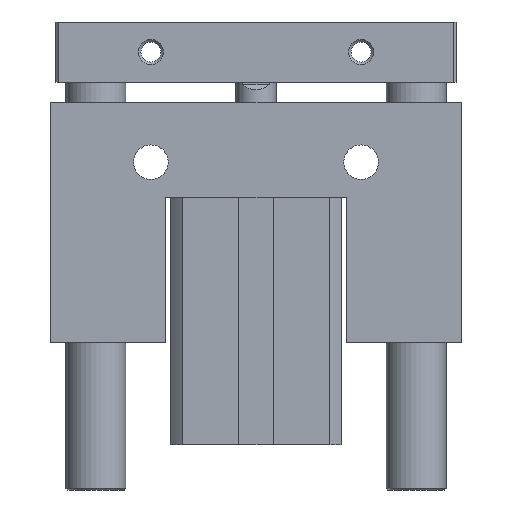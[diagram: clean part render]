
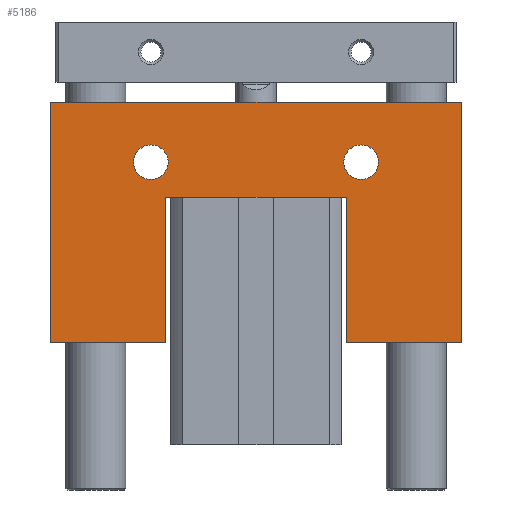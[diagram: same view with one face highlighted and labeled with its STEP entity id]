
A CAD part, front view. The second image highlights one B-rep face of the part: STEP entity #5186.
In plain terms, the highlighted planar face has unit normal (0, -1, 0).
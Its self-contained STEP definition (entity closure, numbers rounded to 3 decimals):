
#2112=CARTESIAN_POINT('',(-17.76,-16.817,20.5));
#2113=VERTEX_POINT('',#2112);
#2114=CARTESIAN_POINT('',(-40.76,-16.817,20.5));
#2115=VERTEX_POINT('',#2114);
#2116=CARTESIAN_POINT('',(-17.76,-16.817,20.5));
#2117=DIRECTION('',(-1.0,0.0,0.0));
#2118=VECTOR('',#2117,23.);
#2119=LINE('',#2116,#2118);
#2120=EDGE_CURVE('',#2113,#2115,#2119,.T.);
#2203=CARTESIAN_POINT('',(41.24,-16.817,20.5));
#2204=VERTEX_POINT('',#2203);
#2205=CARTESIAN_POINT('',(18.24,-16.817,20.5));
#2206=VERTEX_POINT('',#2205);
#2207=CARTESIAN_POINT('',(41.24,-16.817,20.5));
#2208=DIRECTION('',(-1.0,0.0,0.0));
#2209=VECTOR('',#2208,23.0);
#2210=LINE('',#2207,#2209);
#2211=EDGE_CURVE('',#2204,#2206,#2210,.T.);
#2266=CARTESIAN_POINT('',(-40.76,-16.817,68.5));
#2267=VERTEX_POINT('',#2266);
#2268=CARTESIAN_POINT('',(41.24,-16.817,68.5));
#2269=VERTEX_POINT('',#2268);
#2270=CARTESIAN_POINT('',(-40.76,-16.817,68.5));
#2271=DIRECTION('',(1.0,0.0,0.0));
#2272=VECTOR('',#2271,82.);
#2273=LINE('',#2270,#2272);
#2274=EDGE_CURVE('',#2267,#2269,#2273,.T.);
#4418=CARTESIAN_POINT('',(17.79,-16.817,56.5));
#4419=VERTEX_POINT('',#4418);
#4420=CARTESIAN_POINT('',(21.24,-16.817,56.5));
#4421=DIRECTION('',(0.0,1.0,0.0));
#4422=DIRECTION('',(1.0,0.0,0.0));
#4423=AXIS2_PLACEMENT_3D('',#4420,#4421,#4422);
#4424=CIRCLE('',#4423,3.45);
#4425=EDGE_CURVE('',#4419,#4419,#4424,.T.);
#4528=CARTESIAN_POINT('',(-24.21,-16.817,56.5));
#4529=VERTEX_POINT('',#4528);
#4530=CARTESIAN_POINT('',(-20.76,-16.817,56.5));
#4531=DIRECTION('',(0.0,1.0,0.0));
#4532=DIRECTION('',(1.0,0.0,0.0));
#4533=AXIS2_PLACEMENT_3D('',#4530,#4531,#4532);
#4534=CIRCLE('',#4533,3.45);
#4535=EDGE_CURVE('',#4529,#4529,#4534,.T.);
#4588=CARTESIAN_POINT('',(18.24,-16.817,49.5));
#4589=VERTEX_POINT('',#4588);
#4590=CARTESIAN_POINT('',(-17.76,-16.817,49.5));
#4591=VERTEX_POINT('',#4590);
#4592=CARTESIAN_POINT('',(18.24,-16.817,49.5));
#4593=DIRECTION('',(-1.0,0.0,0.0));
#4594=VECTOR('',#4593,36.0);
#4595=LINE('',#4592,#4594);
#4596=EDGE_CURVE('',#4589,#4591,#4595,.T.);
#5078=CARTESIAN_POINT('',(41.24,-16.817,68.5));
#5079=DIRECTION('',(0.0,0.0,-1.0));
#5080=VECTOR('',#5079,48.);
#5081=LINE('',#5078,#5080);
#5082=EDGE_CURVE('',#2269,#2204,#5081,.T.);
#5107=CARTESIAN_POINT('',(18.24,-16.817,20.5));
#5108=DIRECTION('',(0.0,0.0,1.0));
#5109=VECTOR('',#5108,29.);
#5110=LINE('',#5107,#5109);
#5111=EDGE_CURVE('',#2206,#4589,#5110,.T.);
#5124=CARTESIAN_POINT('',(-17.76,-16.817,49.5));
#5125=DIRECTION('',(0.0,0.0,-1.0));
#5126=VECTOR('',#5125,29.);
#5127=LINE('',#5124,#5126);
#5128=EDGE_CURVE('',#4591,#2113,#5127,.T.);
#5141=CARTESIAN_POINT('',(-40.76,-16.817,20.5));
#5142=DIRECTION('',(0.0,0.0,1.0));
#5143=VECTOR('',#5142,48.);
#5144=LINE('',#5141,#5143);
#5145=EDGE_CURVE('',#2115,#2267,#5144,.T.);
#5165=CARTESIAN_POINT('',(0.24,-16.817,46.05));
#5166=DIRECTION('',(0.0,1.0,0.0));
#5167=DIRECTION('',(0.0,0.0,1.0));
#5168=AXIS2_PLACEMENT_3D('',#5165,#5166,#5167);
#5169=PLANE('',#5168);
#5170=ORIENTED_EDGE('',*,*,#5082,.F.);
#5171=ORIENTED_EDGE('',*,*,#2274,.F.);
#5172=ORIENTED_EDGE('',*,*,#5145,.F.);
#5173=ORIENTED_EDGE('',*,*,#2120,.F.);
#5174=ORIENTED_EDGE('',*,*,#5128,.F.);
#5175=ORIENTED_EDGE('',*,*,#4596,.F.);
#5176=ORIENTED_EDGE('',*,*,#5111,.F.);
#5177=ORIENTED_EDGE('',*,*,#2211,.F.);
#5178=EDGE_LOOP('',(#5170,#5171,#5172,#5173,#5174,#5175,#5176,#5177));
#5179=FACE_OUTER_BOUND('',#5178,.T.);
#5180=ORIENTED_EDGE('',*,*,#4425,.T.);
#5181=EDGE_LOOP('',(#5180));
#5182=FACE_BOUND('',#5181,.T.);
#5183=ORIENTED_EDGE('',*,*,#4535,.T.);
#5184=EDGE_LOOP('',(#5183));
#5185=FACE_BOUND('',#5184,.T.);
#5186=ADVANCED_FACE('',(#5179,#5182,#5185),#5169,.F.);
